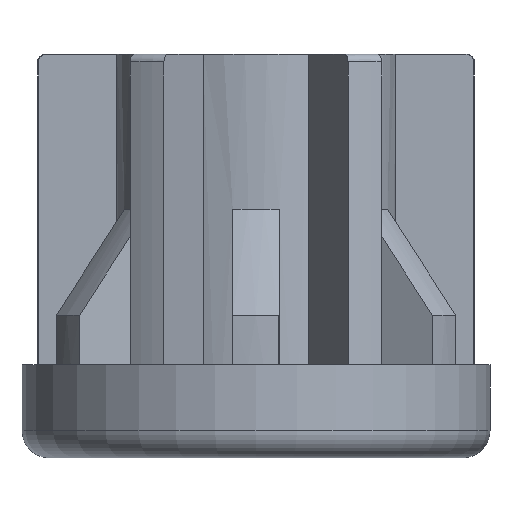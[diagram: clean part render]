
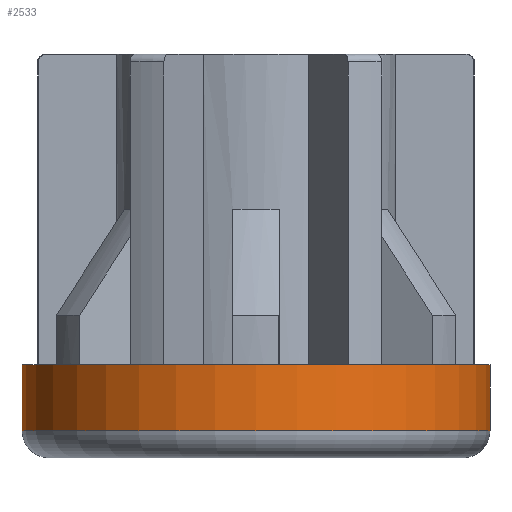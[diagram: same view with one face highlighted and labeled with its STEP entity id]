
A CAD part, front view. The second image highlights one B-rep face of the part: STEP entity #2533.
In plain terms, the highlighted cylindrical face has radius 30.15 mm (diameter 60.3 mm), a partial arc.
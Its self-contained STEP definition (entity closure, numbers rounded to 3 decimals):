
#2 = DIRECTION ( 'NONE',  ( 0., 0., -1. ) ) ;
#17 = ORIENTED_EDGE ( 'NONE', *, *, #1777, .T. ) ;
#192 = DIRECTION ( 'NONE',  ( -1., 0., 0. ) ) ;
#252 = CARTESIAN_POINT ( 'NONE',  ( 30.058, 0.005, 0. ) ) ;
#258 = EDGE_CURVE ( 'NONE', #2207, #1440, #2493, .T. ) ;
#319 = CARTESIAN_POINT ( 'NONE',  ( -30.242, 0.005, 0. ) ) ;
#335 = AXIS2_PLACEMENT_3D ( 'NONE', #3791, #2, #2711 ) ;
#387 = VERTEX_POINT ( 'NONE', #1426 ) ;
#597 = VECTOR ( 'NONE', #1566, 1000. ) ;
#924 = CYLINDRICAL_SURFACE ( 'NONE', #1268, 30.15 ) ;
#1217 = DIRECTION ( 'NONE',  ( 0., 0., -1. ) ) ;
#1241 = AXIS2_PLACEMENT_3D ( 'NONE', #2857, #1217, #1587 ) ;
#1268 = AXIS2_PLACEMENT_3D ( 'NONE', #3222, #2201, #192 ) ;
#1426 = CARTESIAN_POINT ( 'NONE',  ( 30.058, 0.005, 0. ) ) ;
#1440 = VERTEX_POINT ( 'NONE', #2042 ) ;
#1566 = DIRECTION ( 'NONE',  ( 0., 0., -1. ) ) ;
#1587 = DIRECTION ( 'NONE',  ( -1., 0., 0. ) ) ;
#1631 = VERTEX_POINT ( 'NONE', #3674 ) ;
#1777 = EDGE_CURVE ( 'NONE', #387, #1440, #3685, .T. ) ;
#1872 = EDGE_CURVE ( 'NONE', #1631, #2207, #3676, .T. ) ;
#2018 = CARTESIAN_POINT ( 'NONE',  ( -30.242, 0.005, -8.5 ) ) ;
#2042 = CARTESIAN_POINT ( 'NONE',  ( -30.242, 0.005, 0. ) ) ;
#2055 = LINE ( 'NONE', #252, #597 ) ;
#2201 = DIRECTION ( 'NONE',  ( 0., 0., -1. ) ) ;
#2207 = VERTEX_POINT ( 'NONE', #2018 ) ;
#2493 = LINE ( 'NONE', #319, #3382 ) ;
#2533 = ADVANCED_FACE ( 'NONE', ( #3207 ), #924, .T. ) ;
#2567 = EDGE_CURVE ( 'NONE', #387, #1631, #2055, .T. ) ;
#2621 = DIRECTION ( 'NONE',  ( 0., 0., 1. ) ) ;
#2711 = DIRECTION ( 'NONE',  ( -1., 0., 0. ) ) ;
#2857 = CARTESIAN_POINT ( 'NONE',  ( -0.092, 0.005, 0. ) ) ;
#2887 = ORIENTED_EDGE ( 'NONE', *, *, #1872, .F. ) ;
#3042 = ORIENTED_EDGE ( 'NONE', *, *, #2567, .F. ) ;
#3115 = ORIENTED_EDGE ( 'NONE', *, *, #258, .F. ) ;
#3207 = FACE_OUTER_BOUND ( 'NONE', #3741, .T. ) ;
#3222 = CARTESIAN_POINT ( 'NONE',  ( -0.092, 0.005, 0. ) ) ;
#3382 = VECTOR ( 'NONE', #2621, 1000. ) ;
#3674 = CARTESIAN_POINT ( 'NONE',  ( 30.058, 0.005, -8.5 ) ) ;
#3676 = CIRCLE ( 'NONE', #335, 30.15 ) ;
#3685 = CIRCLE ( 'NONE', #1241, 30.15 ) ;
#3741 = EDGE_LOOP ( 'NONE', ( #3115, #2887, #3042, #17 ) ) ;
#3791 = CARTESIAN_POINT ( 'NONE',  ( -0.092, 0.005, -8.5 ) ) ;
